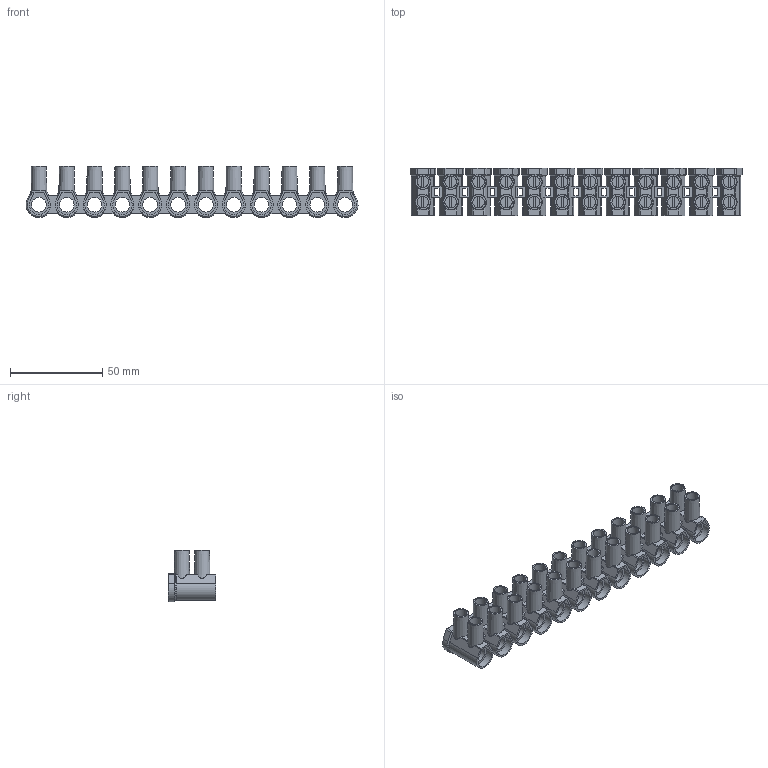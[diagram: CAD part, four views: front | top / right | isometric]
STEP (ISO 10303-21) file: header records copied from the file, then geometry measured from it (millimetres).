
FILE_DESCRIPTION(/* description */ ('Unknown'),/* implementation_level */ '2;1');
FILE_NAME(/* name */ 'MT 135 N',/* time_stamp */ '2021-10-08T10:19:29+02:00',/* author */ ('Unknown'),/* organization */ ('Unknown'),/* preprocessor_version */ 'ST-DEVELOPER v16.7',/* originating_system */ 'Solid Edge',/* authorisation */ 'Unknown');
FILE_SCHEMA (('AUTOMOTIVE_DESIGN {1 0 10303 214 3 1 1}'));
Length unit declared in the file: millimetre
Products named in the file (1): MT 135 N
Bounding box: 180.05 x 25.5 x 27.72 mm (x, y, z)
Volume: 37403.5 mm3; surface area: 36877.6 mm2
Topology: 1 solids, 1 shells, 724 faces, 1938 edges, 1264 vertices
Faces by surface type: plane 484, cylinder 180, cone 60
Full cylindrical faces by diameter (mm): 6.3 x24, 8 x12
Entity records: 21940 total; most frequent: CARTESIAN_POINT 4107, DIRECTION 3696, ORIENTED_EDGE 3636, EDGE_CURVE 1818, AXIS2_PLACEMENT_3D 1273, VERTEX_POINT 1204, LINE 1150, VECTOR 1150
